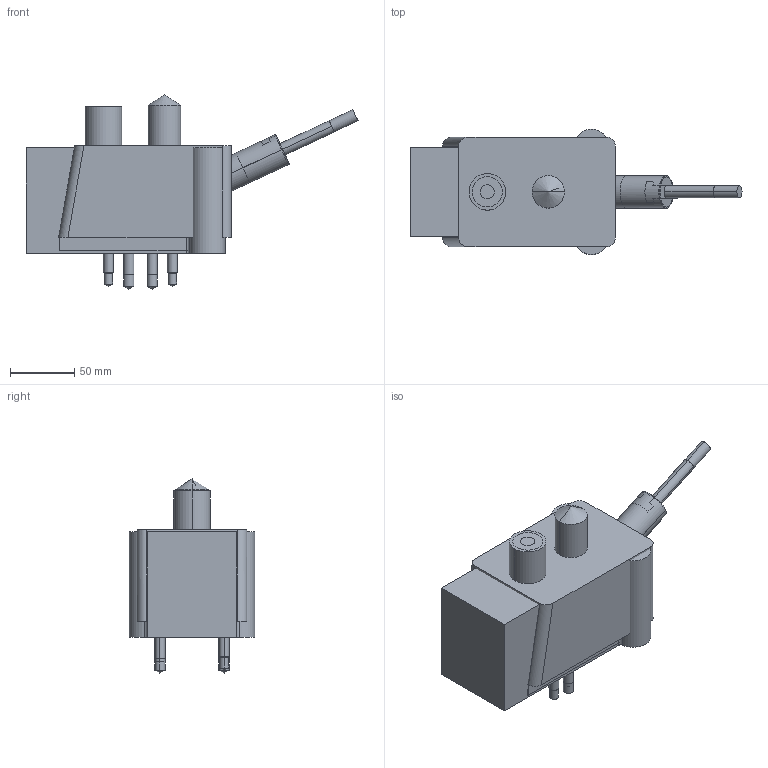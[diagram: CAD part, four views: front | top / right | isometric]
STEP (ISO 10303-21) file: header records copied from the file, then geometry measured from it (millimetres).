
FILE_DESCRIPTION((' '),'2;1');
FILE_NAME( 'EZ-25-P.stp', '2023-11-29T14:30:35', (' '), ('--- Datakit www.datakit.com---'), ' Datakit CrossCadWare V2020.4 Oct 21 2020', 'Export from SolidLink (Hexagon Production Software)', ' ');
FILE_SCHEMA(('AP242_MANAGED_MODEL_BASED_3D_ENGINEERING_MIM_LF { 1 0 10303 442 1 1 4 }'));
Length unit declared in the file: millimetre
Products named in the file (122): Workplanes; 1700579354; 1679432031; 1700502755; 1700502861; 1679423175; 1679423177; 1679423178; 1679423179; 1679423200; 1679423207; 1679423208; 1679423209; 1679423210; 1679423211; 1700837721; 1700837823; 1701269891; 1701286759; 1701286760; 1701286761; 1701286762; 1701286763; 1701286764; 1701286765; 1701286766; 1701286767; 1701286768; 1701286769; 1701286770; 1701286771; 1701286772; 1701286773; 1701286774; 1701286775; 1701286776; 1701286777; 1701286778; 1701286779; 1701286780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
Bounding box: 259.32 x 97.7 x 151.64 mm (x, y, z)
Volume: 2505833.6 mm3; surface area: 226774.5 mm2
Topology: 16 solids, 17 shells, 369 faces, 1055 edges, 933 vertices
Faces by surface type: plane 142, cylinder 125, cone 86, torus 6, revolution 4, sphere 4, bspline 2
Entity records: 16593 total; most frequent: CARTESIAN_POINT 5327, DIRECTION 2302, ORIENTED_EDGE 1660, AXIS2_PLACEMENT_3D 911, EDGE_CURVE 836, VERTEX_POINT 531, VECTOR 476, LINE 476
